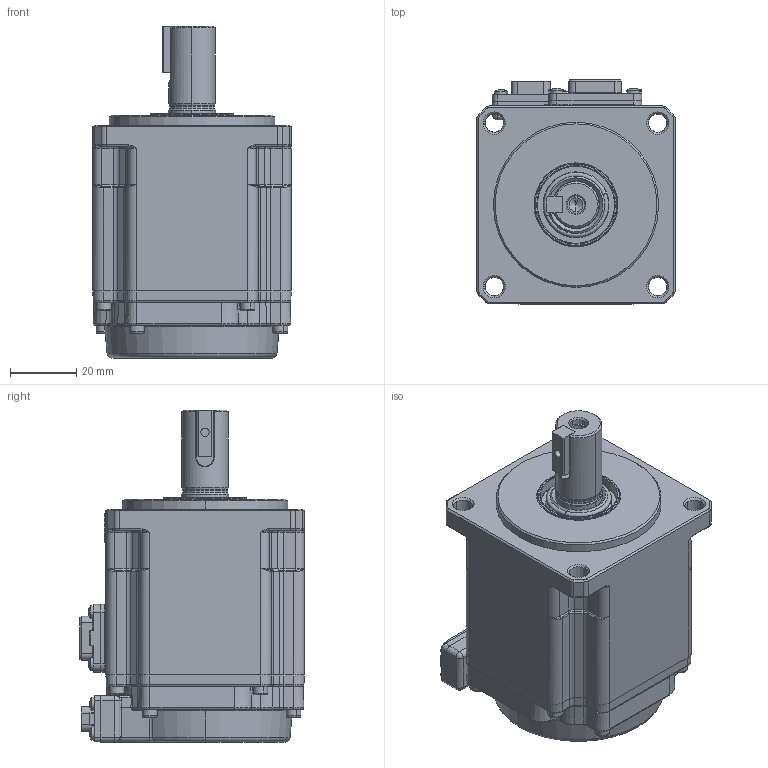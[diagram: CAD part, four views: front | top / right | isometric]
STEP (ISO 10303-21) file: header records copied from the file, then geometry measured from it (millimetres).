
FILE_DESCRIPTION (( 'STEP AP214' ), '1' );
FILE_NAME ('60-200W-衄蚐猾拸秶雄ん(RSK1-H060A02B30S).STEP', '2024-09-06T09:07:38', ( '' ), ( '' ), 'SwSTEP 2.0', 'SolidWorks 2020', '' );
FILE_SCHEMA (( 'AUTOMOTIVE_DESIGN' ));
Length unit declared in the file: millimetre
Products named in the file (11): 3231000001_勾板螺丝型6pin连接器插座_GAMC3064_无制动器线; 2174000001_綴傷裔禱矗_RSK1-H060A04B30S36; 3130000001_す瑩_B5x5x14(GBT1096-2003 湍れ瑩蹟謂M3); 2142000002_儂褲禱矗_RSK1-H060A02B30S36; 苤萇儂晤鎢傷赽; 3220000001_蚐猾_TC15x25x4(NBR); 60-200W-衄蚐猾拸秶雄ん(RSK1-H060A02B30S); 3114000001_十字槽盘头自挤螺钉_M2x5(GBT6560-2014 锌镍合金 黑色); 60楊擘粣; 3111000001_内六角圆柱头螺钉_M2.5x10(GBT70.1-2000 锌镍合金 黑色 耐落 12.9级）; 2181000001_綴裔_RSK1-H060A04B30S36
Assembly tree (24 placements, depth 2):
  60-200W-衄蚐猾拸秶雄ん(RSK1-H060A02B30S)
    2142000002_儂褲禱矗_RSK1-H060A02B30S36
    2174000001_綴傷裔禱矗_RSK1-H060A04B30S36
    2181000001_綴裔_RSK1-H060A04B30S36
    3231000001_勾板螺丝型6pin连接器插座_GAMC3064_无制动器线
    苤萇儂晤鎢傷赽
    60楊擘粣
    3220000001_蚐猾_TC15x25x4(NBR)
    3111000001_内六角圆柱头螺钉_M2.5x10(GBT70.1-2000 锌镍合金 黑色 耐落 12.9级）  x8
    3114000001_十字槽盘头自挤螺钉_M2x5(GBT6560-2014 锌镍合金 黑色)  x8
    3130000001_す瑩_B5x5x14(GBT1096-2003 湍れ瑩蹟謂M3)
Bounding box: 60 x 67.9 x 100.5 mm (x, y, z)
Volume: 176591.2 mm3; surface area: 51576.9 mm2
Topology: 27 solids, 27 shells, 2970 faces, 7566 edges, 4744 vertices
Faces by surface type: plane 1424, cylinder 656, cone 309, bspline 289, torus 254, sphere 38
Entity records: 95735 total; most frequent: CARTESIAN_POINT 26357, ORIENTED_EDGE 13196, DIRECTION 12069, EDGE_CURVE 6598, VERTEX_POINT 4163, AXIS2_PLACEMENT_3D 4096, VECTOR 3877, LINE 3877
